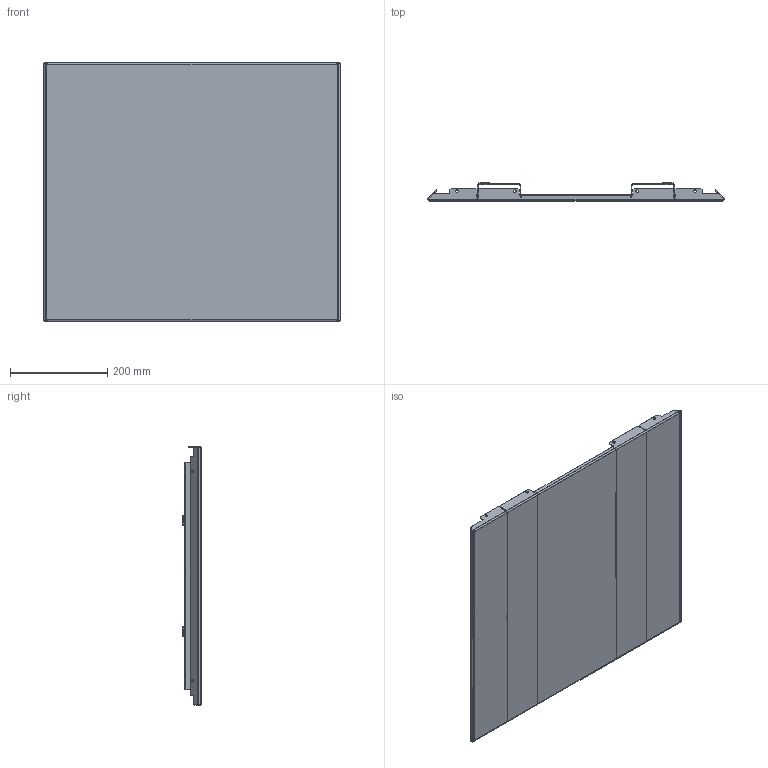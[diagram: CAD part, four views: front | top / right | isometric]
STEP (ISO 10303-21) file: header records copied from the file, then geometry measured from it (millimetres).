
FILE_DESCRIPTION(/* description */ ('Unknown'),/* implementation_level */ '2;1');
FILE_NAME(/* name */ 'Nedre frontplåt C420 med bockade flikar',/* time_stamp */ '2026-09-28T11:12:38+02:00',/* author */ ('Unknown'),/* organization */ ('Unknown'),/* preprocessor_version */ 'ST-DEVELOPER v20',/* originating_system */ 'Solid Edge',/* authorisation */ 'Unknown');
FILE_SCHEMA (('AUTOMOTIVE_DESIGN {1 0 10303 214 3 1 1}'));
Length unit declared in the file: millimetre
Products named in the file (7): DSN1132512; DSN1132471; DSN1132472; FilletWeld_2; FilletWeld_3; DSN1140823; FilletWeld_4
Assembly tree (7 placements, depth 3):
  DSN1132512
    DSN1132471
      DSN1132472
      FilletWeld_2
      FilletWeld_3
      DSN1140823  x2
      FilletWeld_4
Bounding box: 609.99 x 37.5 x 533 mm (x, y, z)
Volume: 765536.1 mm3; surface area: 1031982.9 mm2
Topology: 19 solids, 19 shells, 498 faces, 1336 edges, 868 vertices
Faces by surface type: plane 398, cylinder 84, bspline 12, cone 4
Full cylindrical faces by diameter (mm): 5 x4, 5.5 x4
Entity records: 12253 total; most frequent: CARTESIAN_POINT 2548, ORIENTED_EDGE 1976, DIRECTION 1880, EDGE_CURVE 988, LINE 808, VECTOR 808, VERTEX_POINT 644, AXIS2_PLACEMENT_3D 536
